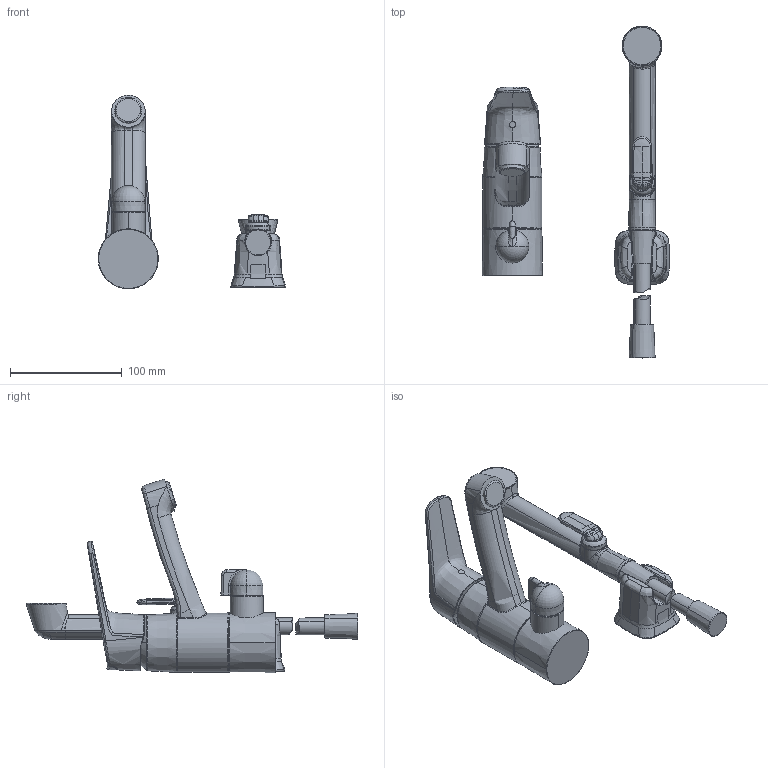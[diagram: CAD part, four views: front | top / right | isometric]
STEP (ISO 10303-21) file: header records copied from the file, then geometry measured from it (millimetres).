
FILE_DESCRIPTION (( 'STEP AP203' ), '1' );
FILE_NAME ('1814G(2023).STEP', '2023-10-11T04:25:26', ( '' ), ( '' ), 'SwSTEP 2.0', 'SolidWorks 2016', '' );
FILE_SCHEMA (( 'CONFIG_CONTROL_DESIGN' ));
Products named in the file (1): 1814G(2023)
Bounding box: 167.6 x 296.68 x 173.17 mm (x, y, z)
Volume: 631614.9 mm3; surface area: 101371.1 mm2
Topology: 13 solids, 13 shells, 455 faces, 1131 edges, 698 vertices
Faces by surface type: bspline 310, cylinder 43, cone 34, plane 34, torus 33, sphere 1
Entity records: 92674 total; most frequent: CARTESIAN_POINT 84528, ORIENTED_EDGE 2244, EDGE_CURVE 1122, DIRECTION 891, VERTEX_POINT 698, B_SPLINE_CURVE_WITH_KNOTS 644, EDGE_LOOP 460, ADVANCED_FACE 455
